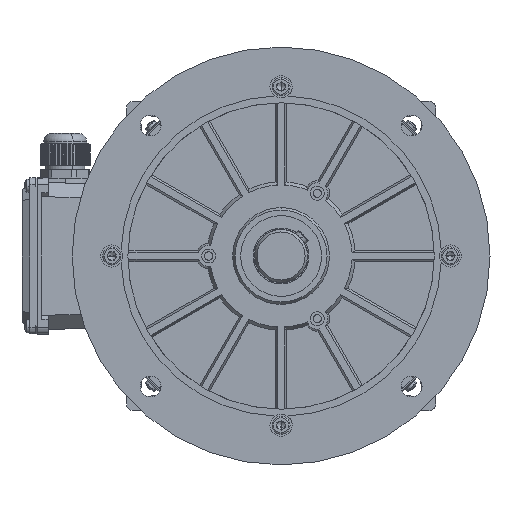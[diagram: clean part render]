
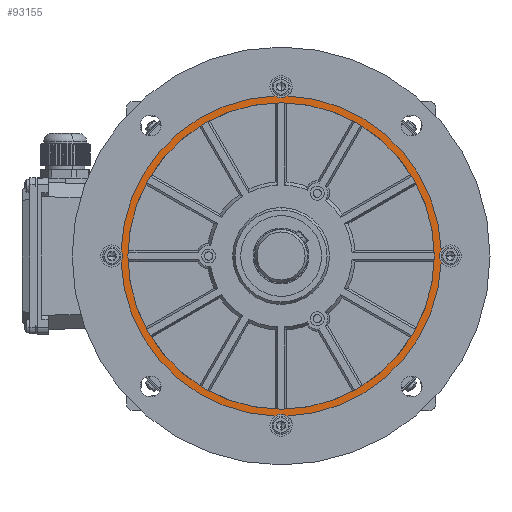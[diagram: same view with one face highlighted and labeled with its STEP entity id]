
A CAD part, left-side view. The second image highlights one B-rep face of the part: STEP entity #93155.
In plain terms, the highlighted planar face has unit normal (-1, 0, 0).
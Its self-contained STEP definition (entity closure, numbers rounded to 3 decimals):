
#88202 = CIRCLE ( 'NONE', #88421, 8. ) ;
#88409 = CARTESIAN_POINT ( 'NONE',  ( 0., 0., -113.5 ) ) ;
#88412 = CARTESIAN_POINT ( 'NONE',  ( 0., -4.536, -114.91 ) ) ;
#88415 = DIRECTION ( 'NONE',  ( 0., 0., -1. ) ) ;
#88418 = DIRECTION ( 'NONE',  ( -1., 0., 0. ) ) ;
#88419 = CARTESIAN_POINT ( 'NONE',  ( 0., 0., -121.5 ) ) ;
#88421 = AXIS2_PLACEMENT_3D ( 'NONE', #88419, #88418, #88415 ) ;
#88943 = DIRECTION ( 'NONE',  ( 0., 0., -1. ) ) ;
#88945 = DIRECTION ( 'NONE',  ( -1., 0., 0. ) ) ;
#88947 = CARTESIAN_POINT ( 'NONE',  ( 0., 0., 121.5 ) ) ;
#88948 = AXIS2_PLACEMENT_3D ( 'NONE', #88947, #88945, #88943 ) ;
#88951 = CIRCLE ( 'NONE', #88948, 8. ) ;
#88955 = CARTESIAN_POINT ( 'NONE',  ( 0., -4.536, 114.91 ) ) ;
#88971 = CARTESIAN_POINT ( 'NONE',  ( 0., 0., 113.5 ) ) ;
#89295 = CARTESIAN_POINT ( 'NONE',  ( 0., 114.91, 4.536 ) ) ;
#89298 = DIRECTION ( 'NONE',  ( 0., 0., -1. ) ) ;
#89299 = DIRECTION ( 'NONE',  ( -1., 0., 0. ) ) ;
#89302 = CARTESIAN_POINT ( 'NONE',  ( 0., 121.5, 0. ) ) ;
#89304 = AXIS2_PLACEMENT_3D ( 'NONE', #89302, #89299, #89298 ) ;
#89305 = CIRCLE ( 'NONE', #89304, 8. ) ;
#89316 = CARTESIAN_POINT ( 'NONE',  ( 0., 114.91, -4.536 ) ) ;
#90400 = EDGE_CURVE ( 'NONE', #90403, #90404, #88202, .T. ) ;
#90403 = VERTEX_POINT ( 'NONE', #88412 ) ;
#90404 = VERTEX_POINT ( 'NONE', #88409 ) ;
#90673 = VERTEX_POINT ( 'NONE', #88971 ) ;
#90688 = EDGE_CURVE ( 'NONE', #90673, #90689, #88951, .T. ) ;
#90689 = VERTEX_POINT ( 'NONE', #88955 ) ;
#90781 = VERTEX_POINT ( 'NONE', #89316 ) ;
#90784 = EDGE_CURVE ( 'NONE', #90781, #90785, #89305, .T. ) ;
#90785 = VERTEX_POINT ( 'NONE', #89295 ) ;
#92038 = VERTEX_POINT ( 'NONE', #92836 ) ;
#92041 = EDGE_CURVE ( 'NONE', #92038, #92044, #92829, .T. ) ;
#92044 = VERTEX_POINT ( 'NONE', #92817 ) ;
#92417 = EDGE_CURVE ( 'NONE', #92044, #92038, #94161, .T. ) ;
#92817 = CARTESIAN_POINT ( 'NONE',  ( 0., 0., 110. ) ) ;
#92819 = DIRECTION ( 'NONE',  ( 0., 0., 1. ) ) ;
#92823 = DIRECTION ( 'NONE',  ( -1., 0., 0. ) ) ;
#92825 = CARTESIAN_POINT ( 'NONE',  ( 0., 0., 0. ) ) ;
#92827 = AXIS2_PLACEMENT_3D ( 'NONE', #92825, #92823, #92819 ) ;
#92829 = CIRCLE ( 'NONE', #92827, 110. ) ;
#92836 = CARTESIAN_POINT ( 'NONE',  ( 0., 0., -110. ) ) ;
#92986 = EDGE_LOOP ( 'NONE', ( #92988, #92991 ) ) ;
#92988 = ORIENTED_EDGE ( 'NONE', *, *, #92417, .F. ) ;
#92991 = ORIENTED_EDGE ( 'NONE', *, *, #92041, .F. ) ;
#92995 = EDGE_LOOP ( 'NONE', ( #93116, #93117, #93120, #93128, #93132, #93134, #93083, #93086, #93088, #93093 ) ) ;
#93083 = ORIENTED_EDGE ( 'NONE', *, *, #93084, .T. ) ;
#93084 = EDGE_CURVE ( 'NONE', #93138, #90785, #96178, .T. ) ;
#93086 = ORIENTED_EDGE ( 'NONE', *, *, #90784, .F. ) ;
#93088 = ORIENTED_EDGE ( 'NONE', *, *, #93090, .T. ) ;
#93090 = EDGE_CURVE ( 'NONE', #90781, #93092, #96392, .T. ) ;
#93092 = VERTEX_POINT ( 'NONE', #96379 ) ;
#93093 = ORIENTED_EDGE ( 'NONE', *, *, #93095, .F. ) ;
#93095 = EDGE_CURVE ( 'NONE', #90404, #93092, #96372, .T. ) ;
#93116 = ORIENTED_EDGE ( 'NONE', *, *, #90400, .F. ) ;
#93117 = ORIENTED_EDGE ( 'NONE', *, *, #93118, .T. ) ;
#93118 = EDGE_CURVE ( 'NONE', #90403, #93119, #96306, .T. ) ;
#93119 = VERTEX_POINT ( 'NONE', #96296 ) ;
#93120 = ORIENTED_EDGE ( 'NONE', *, *, #93122, .F. ) ;
#93122 = EDGE_CURVE ( 'NONE', #93125, #93119, #96485, .T. ) ;
#93125 = VERTEX_POINT ( 'NONE', #96477 ) ;
#93128 = ORIENTED_EDGE ( 'NONE', *, *, #93130, .T. ) ;
#93130 = EDGE_CURVE ( 'NONE', #93125, #90689, #96469, .T. ) ;
#93132 = ORIENTED_EDGE ( 'NONE', *, *, #90688, .F. ) ;
#93134 = ORIENTED_EDGE ( 'NONE', *, *, #93136, .F. ) ;
#93136 = EDGE_CURVE ( 'NONE', #93138, #90673, #96458, .T. ) ;
#93138 = VERTEX_POINT ( 'NONE', #96449 ) ;
#93155 = ADVANCED_FACE ( 'NONE', ( #96399, #96401 ), #96597, .F. ) ;
#94154 = DIRECTION ( 'NONE',  ( 0., 0., 1. ) ) ;
#94156 = DIRECTION ( 'NONE',  ( -1., 0., 0. ) ) ;
#94157 = CARTESIAN_POINT ( 'NONE',  ( 0., 0., 0. ) ) ;
#94159 = AXIS2_PLACEMENT_3D ( 'NONE', #94157, #94156, #94154 ) ;
#94161 = CIRCLE ( 'NONE', #94159, 110. ) ;
#96172 = DIRECTION ( 'NONE',  ( 0., 0., 1. ) ) ;
#96174 = DIRECTION ( 'NONE',  ( -1., 0., 0. ) ) ;
#96176 = AXIS2_PLACEMENT_3D ( 'NONE', #96196, #96174, #96172 ) ;
#96178 = CIRCLE ( 'NONE', #96176, 115. ) ;
#96196 = CARTESIAN_POINT ( 'NONE',  ( 0., 0., 0. ) ) ;
#96296 = CARTESIAN_POINT ( 'NONE',  ( 0., -114.91, -4.536 ) ) ;
#96299 = DIRECTION ( 'NONE',  ( 0., 0., 1. ) ) ;
#96301 = DIRECTION ( 'NONE',  ( -1., 0., 0. ) ) ;
#96303 = CARTESIAN_POINT ( 'NONE',  ( 0., 0., 0. ) ) ;
#96304 = AXIS2_PLACEMENT_3D ( 'NONE', #96303, #96301, #96299 ) ;
#96306 = CIRCLE ( 'NONE', #96304, 115. ) ;
#96362 = DIRECTION ( 'NONE',  ( 0., 0., -1. ) ) ;
#96364 = DIRECTION ( 'NONE',  ( -1., 0., 0. ) ) ;
#96367 = CARTESIAN_POINT ( 'NONE',  ( 0., 0., -121.5 ) ) ;
#96369 = AXIS2_PLACEMENT_3D ( 'NONE', #96367, #96364, #96362 ) ;
#96372 = CIRCLE ( 'NONE', #96369, 8. ) ;
#96379 = CARTESIAN_POINT ( 'NONE',  ( 0., 4.536, -114.91 ) ) ;
#96381 = DIRECTION ( 'NONE',  ( 0., 0., 1. ) ) ;
#96383 = DIRECTION ( 'NONE',  ( -1., 0., 0. ) ) ;
#96387 = CARTESIAN_POINT ( 'NONE',  ( 0., 0., 0. ) ) ;
#96389 = AXIS2_PLACEMENT_3D ( 'NONE', #96387, #96383, #96381 ) ;
#96392 = CIRCLE ( 'NONE', #96389, 115. ) ;
#96399 = FACE_BOUND ( 'NONE', #92986, .T. ) ;
#96401 = FACE_OUTER_BOUND ( 'NONE', #92995, .T. ) ;
#96449 = CARTESIAN_POINT ( 'NONE',  ( 0., 4.536, 114.91 ) ) ;
#96451 = DIRECTION ( 'NONE',  ( 0., 0., -1. ) ) ;
#96453 = DIRECTION ( 'NONE',  ( -1., 0., 0. ) ) ;
#96455 = AXIS2_PLACEMENT_3D ( 'NONE', #96470, #96453, #96451 ) ;
#96458 = CIRCLE ( 'NONE', #96455, 8. ) ;
#96462 = DIRECTION ( 'NONE',  ( 0., 0., 1. ) ) ;
#96465 = DIRECTION ( 'NONE',  ( -1., 0., 0. ) ) ;
#96466 = CARTESIAN_POINT ( 'NONE',  ( 0., 0., 0. ) ) ;
#96467 = AXIS2_PLACEMENT_3D ( 'NONE', #96466, #96465, #96462 ) ;
#96469 = CIRCLE ( 'NONE', #96467, 115. ) ;
#96470 = CARTESIAN_POINT ( 'NONE',  ( 0., 0., 121.5 ) ) ;
#96477 = CARTESIAN_POINT ( 'NONE',  ( 0., -114.91, 4.536 ) ) ;
#96478 = DIRECTION ( 'NONE',  ( 0., 0., -1. ) ) ;
#96481 = DIRECTION ( 'NONE',  ( -1., 0., 0. ) ) ;
#96482 = CARTESIAN_POINT ( 'NONE',  ( 0., -121.5, 0. ) ) ;
#96483 = AXIS2_PLACEMENT_3D ( 'NONE', #96482, #96481, #96478 ) ;
#96485 = CIRCLE ( 'NONE', #96483, 8. ) ;
#96586 = DIRECTION ( 'NONE',  ( 0., 0., -1. ) ) ;
#96589 = DIRECTION ( 'NONE',  ( 1., 0., 0. ) ) ;
#96591 = CARTESIAN_POINT ( 'NONE',  ( 0., 110., 0. ) ) ;
#96594 = AXIS2_PLACEMENT_3D ( 'NONE', #96591, #96589, #96586 ) ;
#96597 = PLANE ( 'NONE',  #96594 ) ;
